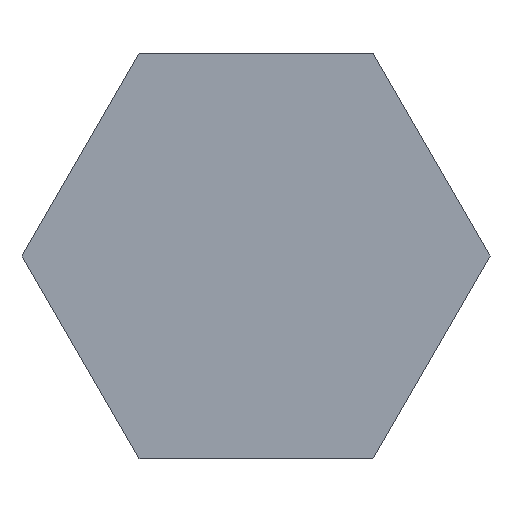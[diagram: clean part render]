
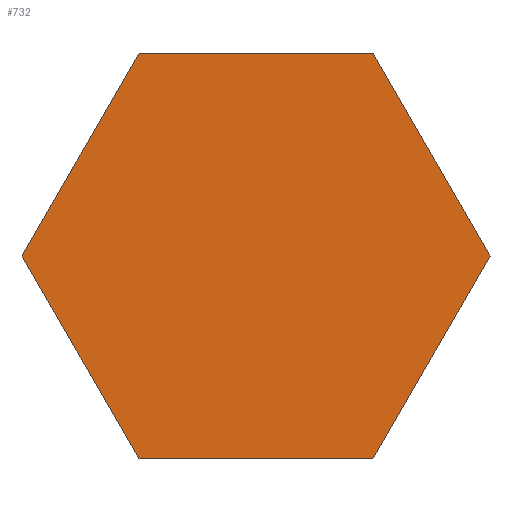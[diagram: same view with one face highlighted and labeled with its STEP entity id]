
A CAD part, front view. The second image highlights one B-rep face of the part: STEP entity #732.
In plain terms, the highlighted planar face has unit normal (0, -1, 0) as drawn and (-1, 0, 0) by its records, which use the part's own axes.
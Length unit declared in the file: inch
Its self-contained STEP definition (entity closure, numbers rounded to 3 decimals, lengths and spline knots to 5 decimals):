
#9 = CARTESIAN_POINT ( 'NONE',  ( 0., -0.28868, -0.5 ) ) ;
#53 = DIRECTION ( 'NONE',  ( 0., -0.5, -0.866 ) ) ;
#63 = DIRECTION ( 'NONE',  ( 0., 0.5, -0.866 ) ) ;
#171 = EDGE_CURVE ( 'NONE', #1221, #1246, #788, .T. ) ;
#257 = CARTESIAN_POINT ( 'NONE',  ( 0., -0.57735, 0. ) ) ;
#342 = VECTOR ( 'NONE', #63, 39.37008 ) ;
#390 = LINE ( 'NONE', #1546, #1501 ) ;
#446 = DIRECTION ( 'NONE',  ( 0., 1., 0. ) ) ;
#452 = EDGE_LOOP ( 'NONE', ( #1017, #1140, #564, #2124, #1444, #1676 ) ) ;
#564 = ORIENTED_EDGE ( 'NONE', *, *, #1251, .F. ) ;
#571 = VECTOR ( 'NONE', #1846, 39.37008 ) ;
#608 = VECTOR ( 'NONE', #710, 39.37008 ) ;
#641 = DIRECTION ( 'NONE',  ( 0., -1., 0. ) ) ;
#643 = VECTOR ( 'NONE', #641, 39.37008 ) ;
#710 = DIRECTION ( 'NONE',  ( 0., -0.5, 0.866 ) ) ;
#732 = ADVANCED_FACE ( 'NONE', ( #1832 ), #830, .F. ) ;
#788 = LINE ( 'NONE', #1449, #643 ) ;
#830 = PLANE ( 'NONE',  #1178 ) ;
#869 = CARTESIAN_POINT ( 'NONE',  ( 0., 0.57735, 0. ) ) ;
#972 = CARTESIAN_POINT ( 'NONE',  ( 0., -0.28868, 0.5 ) ) ;
#1008 = CARTESIAN_POINT ( 'NONE',  ( 0., 0.28868, -0.5 ) ) ;
#1017 = ORIENTED_EDGE ( 'NONE', *, *, #171, .F. ) ;
#1024 = CARTESIAN_POINT ( 'NONE',  ( 0., -0.57735, 0. ) ) ;
#1068 = EDGE_CURVE ( 'NONE', #2082, #1411, #1605, .T. ) ;
#1075 = CARTESIAN_POINT ( 'NONE',  ( 0., 0.28868, -0.5 ) ) ;
#1140 = ORIENTED_EDGE ( 'NONE', *, *, #1264, .F. ) ;
#1173 = CARTESIAN_POINT ( 'NONE',  ( 0., -0.28868, 0.5 ) ) ;
#1178 = AXIS2_PLACEMENT_3D ( 'NONE', #972, #1822, #1972 ) ;
#1218 = VERTEX_POINT ( 'NONE', #869 ) ;
#1221 = VERTEX_POINT ( 'NONE', #1493 ) ;
#1246 = VERTEX_POINT ( 'NONE', #1173 ) ;
#1251 = EDGE_CURVE ( 'NONE', #1411, #1218, #1865, .T. ) ;
#1264 = EDGE_CURVE ( 'NONE', #1218, #1221, #1334, .T. ) ;
#1334 = LINE ( 'NONE', #1703, #608 ) ;
#1411 = VERTEX_POINT ( 'NONE', #1075 ) ;
#1429 = EDGE_CURVE ( 'NONE', #1246, #1524, #390, .T. ) ;
#1444 = ORIENTED_EDGE ( 'NONE', *, *, #1843, .F. ) ;
#1449 = CARTESIAN_POINT ( 'NONE',  ( 0., 0.28868, 0.5 ) ) ;
#1493 = CARTESIAN_POINT ( 'NONE',  ( 0., 0.28868, 0.5 ) ) ;
#1501 = VECTOR ( 'NONE', #53, 39.37008 ) ;
#1524 = VERTEX_POINT ( 'NONE', #1024 ) ;
#1546 = CARTESIAN_POINT ( 'NONE',  ( 0., -0.28868, 0.5 ) ) ;
#1555 = LINE ( 'NONE', #257, #342 ) ;
#1605 = LINE ( 'NONE', #2113, #1744 ) ;
#1676 = ORIENTED_EDGE ( 'NONE', *, *, #1429, .F. ) ;
#1703 = CARTESIAN_POINT ( 'NONE',  ( 0., 0.57735, 0. ) ) ;
#1744 = VECTOR ( 'NONE', #446, 39.37008 ) ;
#1822 = DIRECTION ( 'NONE',  ( 1., 0., 0. ) ) ;
#1832 = FACE_OUTER_BOUND ( 'NONE', #452, .T. ) ;
#1843 = EDGE_CURVE ( 'NONE', #1524, #2082, #1555, .T. ) ;
#1846 = DIRECTION ( 'NONE',  ( 0., 0.5, 0.866 ) ) ;
#1865 = LINE ( 'NONE', #1008, #571 ) ;
#1972 = DIRECTION ( 'NONE',  ( 0., 0., -1. ) ) ;
#2082 = VERTEX_POINT ( 'NONE', #9 ) ;
#2113 = CARTESIAN_POINT ( 'NONE',  ( 0., -0.28868, -0.5 ) ) ;
#2124 = ORIENTED_EDGE ( 'NONE', *, *, #1068, .F. ) ;
